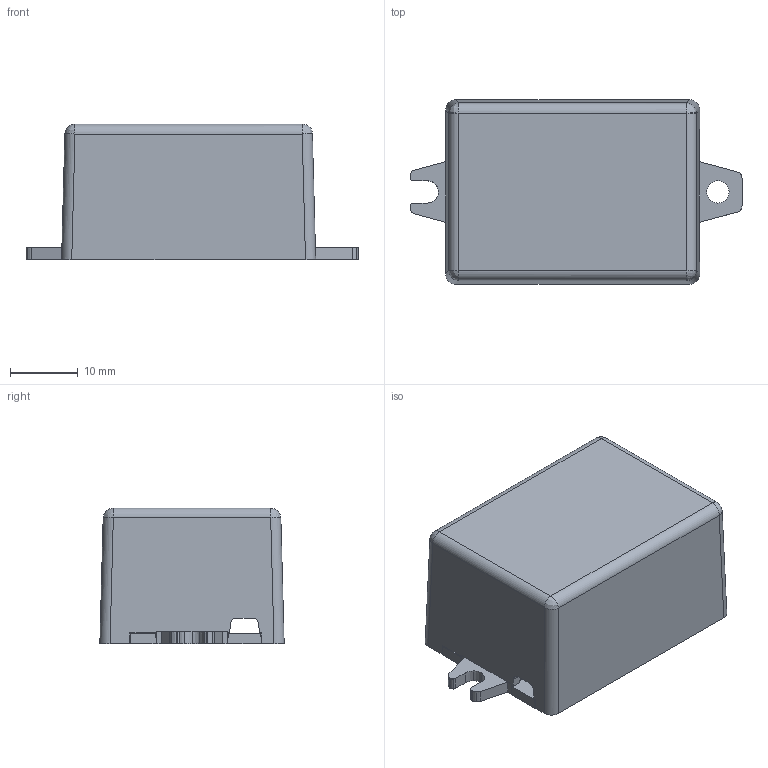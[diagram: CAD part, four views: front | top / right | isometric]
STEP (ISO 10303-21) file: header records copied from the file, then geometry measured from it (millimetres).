
FILE_DESCRIPTION((''),'2;1');
FILE_NAME('LSC4W-ASM_ASM','2016-12-22T',('hedy'),(''),'PRO/ENGINEER BY PARAMETRIC TECHNOLOGY CORPORATION, 2007450','PRO/ENGINEER BY PARAMETRIC TECHNOLOGY CORPORATION, 2007450','');
FILE_SCHEMA(('CONFIG_CONTROL_DESIGN'));
Length unit declared in the file: millimetre
Products named in the file (3): MAWLSC4W-1A-150626; MAWLSC4W-2A-150313; LSC4W-ASM_ASM
Assembly tree (2 placements, depth 2):
  LSC4W-ASM_ASM
    MAWLSC4W-1A-150626
    MAWLSC4W-2A-150313
Bounding box: 49 x 27.2 x 20 mm (x, y, z)
Volume: 5484.5 mm3; surface area: 8703.4 mm2
Topology: 2 solids, 2 shells, 163 faces, 443 edges, 282 vertices
Faces by surface type: plane 115, extrusion 24, cylinder 16, bspline 8
Entity records: 5647 total; most frequent: CARTESIAN_POINT 1651, ORIENTED_EDGE 878, DIRECTION 675, EDGE_CURVE 439, VECTOR 379, LINE 355, VERTEX_POINT 282, EDGE_LOOP 167
